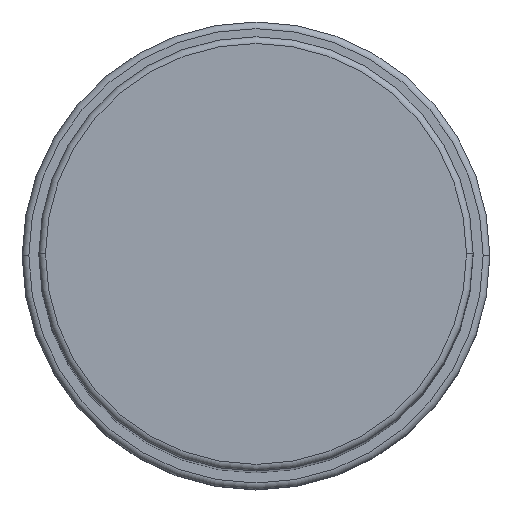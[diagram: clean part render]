
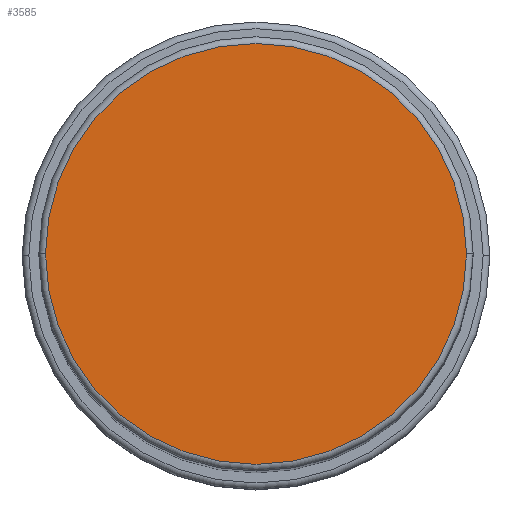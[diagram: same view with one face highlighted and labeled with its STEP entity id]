
A CAD part, top view. The second image highlights one B-rep face of the part: STEP entity #3585.
In plain terms, the highlighted planar face has unit normal (0, 0, 1).
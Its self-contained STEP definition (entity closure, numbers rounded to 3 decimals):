
#32 = VERTEX_POINT ( 'NONE', #4510 ) ;
#389 = CIRCLE ( 'NONE', #4473, 31.5 ) ;
#615 = EDGE_CURVE ( 'NONE', #32, #1114, #3507, .T. ) ;
#704 = DIRECTION ( 'NONE',  ( 0., 0., 1. ) ) ;
#1114 = VERTEX_POINT ( 'NONE', #4717 ) ;
#1529 = DIRECTION ( 'NONE',  ( 1., 0., 0. ) ) ;
#1732 = DIRECTION ( 'NONE',  ( 0., 0., 1. ) ) ;
#1885 = DIRECTION ( 'NONE',  ( 0., 0., 1. ) ) ;
#2137 = CARTESIAN_POINT ( 'NONE',  ( 0., 0., 178. ) ) ;
#2176 = EDGE_LOOP ( 'NONE', ( #5280, #2807 ) ) ;
#2233 = EDGE_CURVE ( 'NONE', #1114, #32, #389, .T. ) ;
#2240 = CARTESIAN_POINT ( 'NONE',  ( 0., 0., 178. ) ) ;
#2268 = AXIS2_PLACEMENT_3D ( 'NONE', #3259, #704, #1529 ) ;
#2328 = AXIS2_PLACEMENT_3D ( 'NONE', #2240, #1885, #3920 ) ;
#2544 = DIRECTION ( 'NONE',  ( 1., 0., 0. ) ) ;
#2807 = ORIENTED_EDGE ( 'NONE', *, *, #615, .T. ) ;
#2987 = FACE_OUTER_BOUND ( 'NONE', #2176, .T. ) ;
#3259 = CARTESIAN_POINT ( 'NONE',  ( 0., 0., 178. ) ) ;
#3507 = CIRCLE ( 'NONE', #2268, 31.5 ) ;
#3585 = ADVANCED_FACE ( 'NONE', ( #2987 ), #3961, .T. ) ;
#3920 = DIRECTION ( 'NONE',  ( 1., 0., 0. ) ) ;
#3961 = PLANE ( 'NONE',  #2328 ) ;
#4473 = AXIS2_PLACEMENT_3D ( 'NONE', #2137, #1732, #2544 ) ;
#4510 = CARTESIAN_POINT ( 'NONE',  ( -31.5, 0., 178. ) ) ;
#4717 = CARTESIAN_POINT ( 'NONE',  ( 31.5, 0., 178. ) ) ;
#5280 = ORIENTED_EDGE ( 'NONE', *, *, #2233, .T. ) ;
